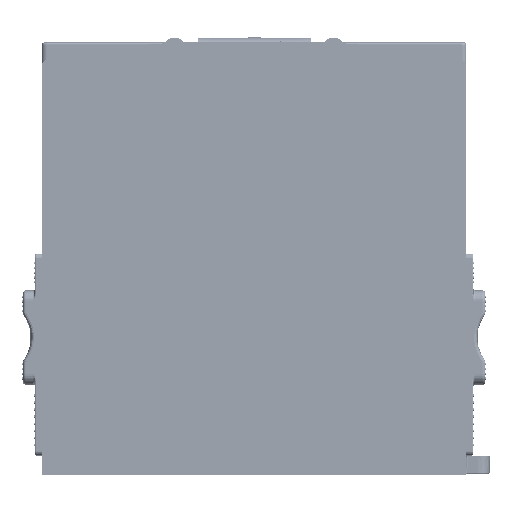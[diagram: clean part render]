
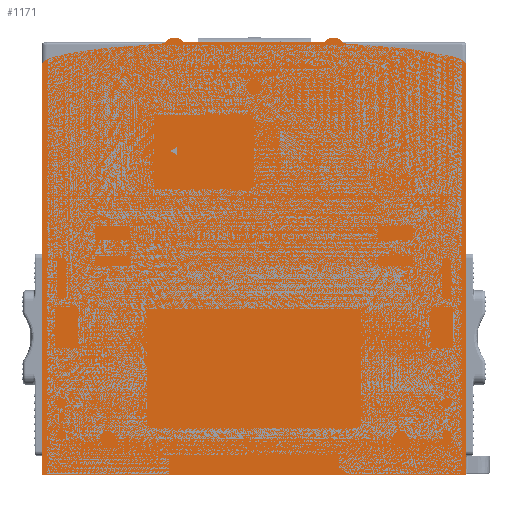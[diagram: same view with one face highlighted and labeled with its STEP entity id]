
A CAD part, left-side view. The second image highlights one B-rep face of the part: STEP entity #1171.
In plain terms, the highlighted planar face has unit normal (-1, 0, 0).
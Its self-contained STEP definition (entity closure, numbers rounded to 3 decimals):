
#16=DIRECTION('',(0.,-1.,0.));
#17=VECTOR('',#16,90.);
#18=CARTESIAN_POINT('',(-96.25,45.,0.));
#19=LINE('',#18,#17);
#45=CARTESIAN_POINT('',(-96.25,14.855,91.72));
#46=CARTESIAN_POINT('',(-96.25,4.952,92.105));
#47=CARTESIAN_POINT('',(-96.25,-4.952,92.105));
#48=CARTESIAN_POINT('',(-96.25,-14.855,91.72));
#53=CARTESIAN_POINT('',(-96.25,-16.865,90.232));
#54=DIRECTION('',(-1.,0.,0.));
#55=DIRECTION('',(0.,-0.854,0.52));
#56=AXIS2_PLACEMENT_3D('',#53,#54,#55);
#61=CARTESIAN_POINT('',(-96.25,-19.,91.532));
#62=CARTESIAN_POINT('',(-96.25,-21.432,91.407));
#63=CARTESIAN_POINT('',(-96.25,-25.037,91.177));
#64=CARTESIAN_POINT('',(-96.25,-29.732,90.765));
#65=CARTESIAN_POINT('',(-96.25,-33.186,90.392));
#66=CARTESIAN_POINT('',(-96.25,-35.993,90.014));
#67=CARTESIAN_POINT('',(-96.25,-38.178,89.654));
#68=CARTESIAN_POINT('',(-96.25,-39.779,89.348));
#69=CARTESIAN_POINT('',(-96.25,-41.329,88.993));
#70=CARTESIAN_POINT('',(-96.25,-42.559,88.64));
#71=CARTESIAN_POINT('',(-96.25,-43.482,88.298));
#72=CARTESIAN_POINT('',(-96.25,-44.127,87.998));
#73=CARTESIAN_POINT('',(-96.25,-44.606,87.691));
#74=CARTESIAN_POINT('',(-96.25,-44.901,87.363));
#75=CARTESIAN_POINT('',(-96.25,-45.,87.152));
#76=CARTESIAN_POINT('',(-96.25,-45.,87.));
#81=DIRECTION('',(0.,0.,1.));
#82=VECTOR('',#81,87.);
#83=CARTESIAN_POINT('',(-96.25,45.,0.));
#84=LINE('',#83,#82);
#88=CARTESIAN_POINT('',(-96.25,45.,87.));
#89=CARTESIAN_POINT('',(-96.25,45.,87.152));
#90=CARTESIAN_POINT('',(-96.25,44.901,87.363));
#91=CARTESIAN_POINT('',(-96.25,44.606,87.691));
#92=CARTESIAN_POINT('',(-96.25,44.127,87.998));
#93=CARTESIAN_POINT('',(-96.25,43.482,88.298));
#94=CARTESIAN_POINT('',(-96.25,42.559,88.64));
#95=CARTESIAN_POINT('',(-96.25,41.329,88.993));
#96=CARTESIAN_POINT('',(-96.25,39.779,89.348));
#97=CARTESIAN_POINT('',(-96.25,38.178,89.654));
#98=CARTESIAN_POINT('',(-96.25,35.993,90.014));
#99=CARTESIAN_POINT('',(-96.25,33.186,90.392));
#100=CARTESIAN_POINT('',(-96.25,29.732,90.765));
#101=CARTESIAN_POINT('',(-96.25,25.037,91.177));
#102=CARTESIAN_POINT('',(-96.25,21.432,91.407));
#103=CARTESIAN_POINT('',(-96.25,19.,91.532));
#108=CARTESIAN_POINT('',(-96.25,16.865,90.232));
#109=DIRECTION('',(-1.,0.,0.));
#110=DIRECTION('',(0.,-0.804,0.595));
#111=AXIS2_PLACEMENT_3D('',#108,#109,#110);
#351=DIRECTION('',(0.,0.,1.));
#352=VECTOR('',#351,87.);
#353=CARTESIAN_POINT('',(-96.25,-45.,0.));
#354=LINE('',#353,#352);
#985=CARTESIAN_POINT('',(-96.25,45.,0.));
#986=CARTESIAN_POINT('',(-96.25,-45.,0.));
#987=VERTEX_POINT('',#985);
#988=VERTEX_POINT('',#986);
#1021=CARTESIAN_POINT('',(-96.25,45.,87.));
#1022=VERTEX_POINT('',#1021);
#1023=CARTESIAN_POINT('',(-96.25,-45.,87.));
#1024=VERTEX_POINT('',#1023);
#1061=VERTEX_POINT('',#103);
#1062=VERTEX_POINT('',#45);
#1063=VERTEX_POINT('',#48);
#1064=VERTEX_POINT('',#61);
#1149=CARTESIAN_POINT('',(-96.25,45.,0.));
#1150=DIRECTION('',(-1.,0.,0.));
#1151=DIRECTION('',(0.,-1.,0.));
#1152=AXIS2_PLACEMENT_3D('',#1149,#1150,#1151);
#1153=PLANE('',#1152);
#1155=ORIENTED_EDGE('',*,*,#1154,.T.);
#1157=ORIENTED_EDGE('',*,*,#1156,.F.);
#1159=ORIENTED_EDGE('',*,*,#1158,.T.);
#1161=ORIENTED_EDGE('',*,*,#1160,.F.);
#1162=ORIENTED_EDGE('',*,*,#1138,.F.);
#1164=ORIENTED_EDGE('',*,*,#1163,.T.);
#1166=ORIENTED_EDGE('',*,*,#1165,.T.);
#1168=ORIENTED_EDGE('',*,*,#1167,.F.);
#1169=EDGE_LOOP('',(#1155,#1157,#1159,#1161,#1162,#1164,#1166,#1168));
#1170=FACE_OUTER_BOUND('',#1169,.F.);
#49=B_SPLINE_CURVE_WITH_KNOTS('',3,(#45,#46,#47,#48),.UNSPECIFIED.,.F.,.F.,(4,
4),(0.,1.),.UNSPECIFIED.);
#57=CIRCLE('',#56,2.5);
#77=B_SPLINE_CURVE_WITH_KNOTS('',3,(#61,#62,#63,#64,#65,#66,#67,#68,#69,#70,#71,
#72,#73,#74,#75,#76),.UNSPECIFIED.,.F.,.F.,(4,1,1,1,1,1,1,1,1,1,1,1,1,4),(0.,
0.25,0.375,0.5,0.625,0.688,0.75,0.813,0.875,0.906,
0.938,0.969,0.984,1.),.UNSPECIFIED.);
#104=B_SPLINE_CURVE_WITH_KNOTS('',3,(#88,#89,#90,#91,#92,#93,#94,#95,#96,#97,
#98,#99,#100,#101,#102,#103),.UNSPECIFIED.,.F.,.F.,(4,1,1,1,1,1,1,1,1,1,1,1,1,
4),(0.,0.016,0.031,0.063,0.094,0.125,0.188,0.25,0.313,
0.375,0.5,0.625,0.75,1.),.UNSPECIFIED.);
#112=CIRCLE('',#111,2.5);
#1138=EDGE_CURVE('',#987,#988,#19,.T.);
#1154=EDGE_CURVE('',#1062,#1063,#49,.T.);
#1156=EDGE_CURVE('',#1064,#1063,#57,.T.);
#1158=EDGE_CURVE('',#1064,#1024,#77,.T.);
#1160=EDGE_CURVE('',#988,#1024,#354,.T.);
#1163=EDGE_CURVE('',#987,#1022,#84,.T.);
#1165=EDGE_CURVE('',#1022,#1061,#104,.T.);
#1167=EDGE_CURVE('',#1062,#1061,#112,.T.);
#1171=ADVANCED_FACE('',(#1170),#1153,.T.);
